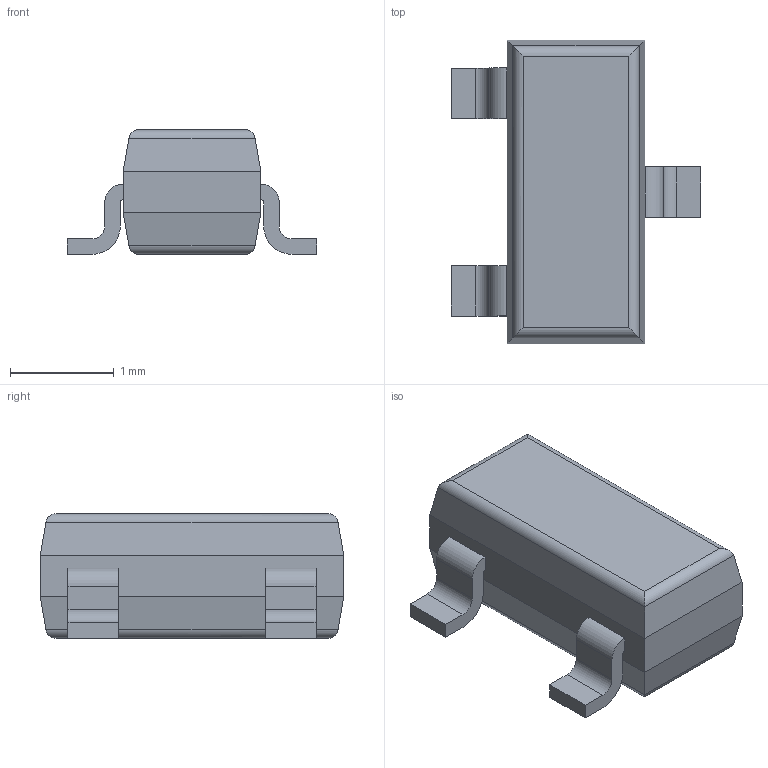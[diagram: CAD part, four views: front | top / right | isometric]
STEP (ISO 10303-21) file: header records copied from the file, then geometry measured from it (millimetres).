
FILE_DESCRIPTION (( 'STEP AP214' ), '1' );
FILE_NAME ( 'SOT23-3P95_240X120L20X48.STP', '2017-11-15T10:09:04', ( '' ), ( '' ), '', '©2017 PCB Libraries, Inc.', '' );
FILE_SCHEMA (( 'AUTOMOTIVE_DESIGN' ));
Length unit declared in the file: millimetre
Products named in the file (1): SOT23-3P95_240X120L20X48
Bounding box: 2.4 x 2.92 x 1.2 mm (x, y, z)
Volume: 4.6 mm3; surface area: 20.2 mm2
Topology: 4 solids, 4 shells, 64 faces, 152 edges, 96 vertices
Faces by surface type: plane 44, cylinder 20
Entity records: 1875 total; most frequent: CARTESIAN_POINT 337, ORIENTED_EDGE 304, DIRECTION 298, EDGE_CURVE 152, VECTOR 120, LINE 120, VERTEX_POINT 96, AXIS2_PLACEMENT_3D 89
